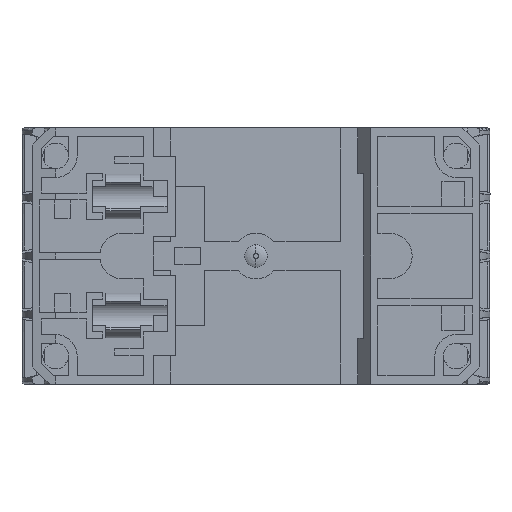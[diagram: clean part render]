
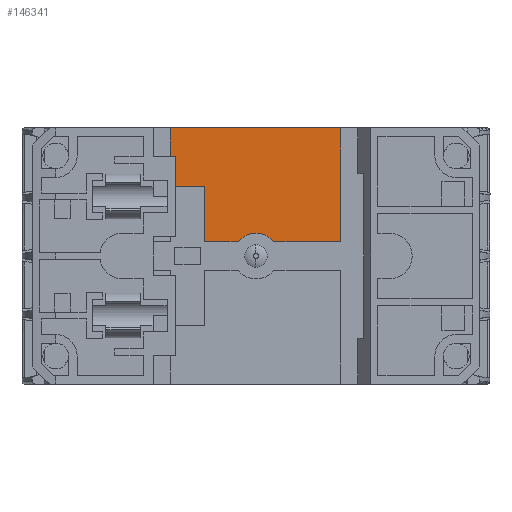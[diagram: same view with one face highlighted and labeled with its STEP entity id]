
A CAD part, front view. The second image highlights one B-rep face of the part: STEP entity #146341.
In plain terms, the highlighted planar face has unit normal (0, -1, 0).
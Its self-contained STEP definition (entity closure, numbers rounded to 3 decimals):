
#1592 = EDGE_LOOP ( 'NONE', ( #70501, #164919, #125034, #173452, #75001, #93057, #54970, #148631, #141103 ) ) ;
#1694 = CARTESIAN_POINT ( 'NONE',  ( -109.825, -95.331, 50.465 ) ) ;
#4457 = VERTEX_POINT ( 'NONE', #123439 ) ;
#9885 = CARTESIAN_POINT ( 'NONE',  ( -77.025, -95.331, 50.465 ) ) ;
#10291 = DIRECTION ( 'NONE',  ( 0., 0., 1. ) ) ;
#10541 = VECTOR ( 'NONE', #166310, 1000. ) ;
#15551 = CARTESIAN_POINT ( 'NONE',  ( -91.825, -95.331, 51.965 ) ) ;
#18174 = CARTESIAN_POINT ( 'NONE',  ( -91.825, -95.331, 47.965 ) ) ;
#18819 = EDGE_CURVE ( 'NONE', #152723, #52787, #170075, .T. ) ;
#23653 = CARTESIAN_POINT ( 'NONE',  ( -106.825, -95.331, 70.365 ) ) ;
#25558 = CARTESIAN_POINT ( 'NONE',  ( -107.325, -95.331, 60.097 ) ) ;
#27661 = VECTOR ( 'NONE', #142417, 1000. ) ;
#29934 = VECTOR ( 'NONE', #103478, 1000. ) ;
#32303 = DIRECTION ( 'NONE',  ( -1., 0., 0. ) ) ;
#34986 = VERTEX_POINT ( 'NONE', #41522 ) ;
#41522 = CARTESIAN_POINT ( 'NONE',  ( -94.948, -95.331, 50.465 ) ) ;
#50866 = EDGE_CURVE ( 'NONE', #122091, #152723, #149940, .T. ) ;
#52325 = LINE ( 'NONE', #166889, #10541 ) ;
#52787 = VERTEX_POINT ( 'NONE', #153605 ) ;
#54970 = ORIENTED_EDGE ( 'NONE', *, *, #56714, .T. ) ;
#56714 = EDGE_CURVE ( 'NONE', #102458, #52787, #109010, .T. ) ;
#61042 = EDGE_CURVE ( 'NONE', #124974, #133984, #52325, .T. ) ;
#62311 = EDGE_CURVE ( 'NONE', #34986, #124974, #177152, .T. ) ;
#65759 = AXIS2_PLACEMENT_3D ( 'NONE', #178601, #94414, #10291 ) ;
#67124 = LINE ( 'NONE', #75168, #137531 ) ;
#67314 = LINE ( 'NONE', #89357, #29934 ) ;
#70501 = ORIENTED_EDGE ( 'NONE', *, *, #106593, .T. ) ;
#75001 = ORIENTED_EDGE ( 'NONE', *, *, #62311, .F. ) ;
#75168 = CARTESIAN_POINT ( 'NONE',  ( -109.825, -95.331, 70.365 ) ) ;
#76622 = VERTEX_POINT ( 'NONE', #23653 ) ;
#80356 = EDGE_CURVE ( 'NONE', #34986, #102458, #124942, .T. ) ;
#81951 = CARTESIAN_POINT ( 'NONE',  ( -91.825, -95.331, 47.965 ) ) ;
#82057 = DIRECTION ( 'NONE',  ( -1., 0., 0. ) ) ;
#89331 = DIRECTION ( 'NONE',  ( -1., 0., 0. ) ) ;
#89357 = CARTESIAN_POINT ( 'NONE',  ( -106.825, -95.331, 70.365 ) ) ;
#90780 = DIRECTION ( 'NONE',  ( 0., 0., -1. ) ) ;
#93057 = ORIENTED_EDGE ( 'NONE', *, *, #80356, .T. ) ;
#94414 = DIRECTION ( 'NONE',  ( 0., 1., 0. ) ) ;
#94451 = AXIS2_PLACEMENT_3D ( 'NONE', #81951, #180248, #96085 ) ;
#95272 = VECTOR ( 'NONE', #97719, 1000. ) ;
#96085 = DIRECTION ( 'NONE',  ( -1., 0., 0. ) ) ;
#97719 = DIRECTION ( 'NONE',  ( -1., 0., 0. ) ) ;
#102458 = VERTEX_POINT ( 'NONE', #15551 ) ;
#103478 = DIRECTION ( 'NONE',  ( 0., 0., 1. ) ) ;
#106593 = EDGE_CURVE ( 'NONE', #122091, #76622, #67124, .T. ) ;
#107968 = PLANE ( 'NONE',  #65759 ) ;
#109010 = CIRCLE ( 'NONE', #94451, 4. ) ;
#112645 = VECTOR ( 'NONE', #90780, 1000. ) ;
#116534 = DIRECTION ( 'NONE',  ( 0., 1., 0. ) ) ;
#122091 = VERTEX_POINT ( 'NONE', #166490 ) ;
#123439 = CARTESIAN_POINT ( 'NONE',  ( -106.825, -95.331, 60.097 ) ) ;
#124942 = CIRCLE ( 'NONE', #179160, 4. ) ;
#124974 = VERTEX_POINT ( 'NONE', #172961 ) ;
#125034 = ORIENTED_EDGE ( 'NONE', *, *, #125270, .F. ) ;
#125270 = EDGE_CURVE ( 'NONE', #133984, #4457, #142801, .T. ) ;
#127145 = EDGE_CURVE ( 'NONE', #4457, #76622, #67314, .T. ) ;
#133984 = VERTEX_POINT ( 'NONE', #149330 ) ;
#137531 = VECTOR ( 'NONE', #89331, 1000. ) ;
#138394 = VECTOR ( 'NONE', #82057, 1000. ) ;
#141103 = ORIENTED_EDGE ( 'NONE', *, *, #50866, .F. ) ;
#142417 = DIRECTION ( 'NONE',  ( -1., 0., 0. ) ) ;
#142801 = LINE ( 'NONE', #25558, #138394 ) ;
#146341 = ADVANCED_FACE ( 'NONE', ( #174973 ), #107968, .F. ) ;
#146771 = CARTESIAN_POINT ( 'NONE',  ( -77.025, -95.331, 50.465 ) ) ;
#148631 = ORIENTED_EDGE ( 'NONE', *, *, #18819, .F. ) ;
#149330 = CARTESIAN_POINT ( 'NONE',  ( -100.825, -95.331, 60.097 ) ) ;
#149940 = LINE ( 'NONE', #146771, #112645 ) ;
#152723 = VERTEX_POINT ( 'NONE', #9885 ) ;
#153605 = CARTESIAN_POINT ( 'NONE',  ( -88.703, -95.331, 50.465 ) ) ;
#164919 = ORIENTED_EDGE ( 'NONE', *, *, #127145, .F. ) ;
#166310 = DIRECTION ( 'NONE',  ( 0., 0., 1. ) ) ;
#166490 = CARTESIAN_POINT ( 'NONE',  ( -77.025, -95.331, 70.365 ) ) ;
#166889 = CARTESIAN_POINT ( 'NONE',  ( -100.825, -95.331, 60.097 ) ) ;
#170075 = LINE ( 'NONE', #181275, #95272 ) ;
#172961 = CARTESIAN_POINT ( 'NONE',  ( -100.825, -95.331, 50.465 ) ) ;
#173452 = ORIENTED_EDGE ( 'NONE', *, *, #61042, .F. ) ;
#174973 = FACE_OUTER_BOUND ( 'NONE', #1592, .T. ) ;
#177152 = LINE ( 'NONE', #1694, #27661 ) ;
#178601 = CARTESIAN_POINT ( 'NONE',  ( -52.825, -95.331, 70.365 ) ) ;
#179160 = AXIS2_PLACEMENT_3D ( 'NONE', #18174, #116534, #32303 ) ;
#180248 = DIRECTION ( 'NONE',  ( 0., 1., 0. ) ) ;
#181275 = CARTESIAN_POINT ( 'NONE',  ( -109.825, -95.331, 50.465 ) ) ;
